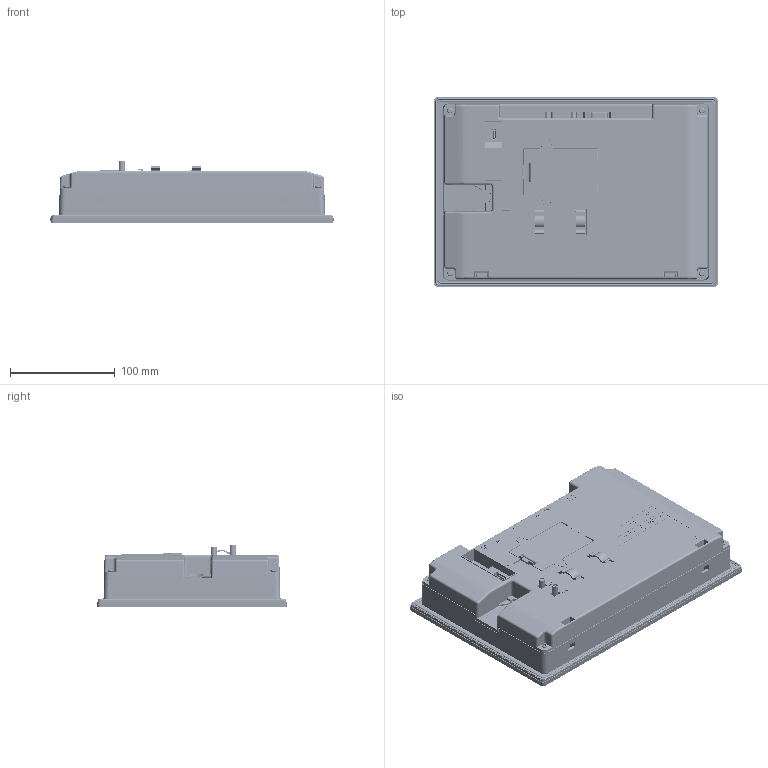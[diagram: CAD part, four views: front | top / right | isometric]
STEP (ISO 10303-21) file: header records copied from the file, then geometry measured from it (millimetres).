
FILE_DESCRIPTION((''),'2;1');
FILE_NAME('DOP-3C10WS_A_ASM','2023-11-17T14:28:03',('YULUN.WU'),(''),'CREO PARAMETRIC BY PTC INC, 2017110','CREO PARAMETRIC BY PTC INC, 2017110','');
FILE_SCHEMA(('CONFIG_CONTROL_DESIGN'));
Products named in the file (30): FRONTCASE_300IOT_10_A; LCM-TIANMA5059738485_10; BRACKET_300IOT_10_A; PCB_300IOT_A; POWER-B2_; COM-2-B2_; CONTACT-4-PIN_; COM-B2_; USB-HOST-B2-180_; TRANSFORMER; TF07V50S; BATTERYBASE; CAP; COMPONT; TYPEC_180; MICROSD; CAP6_5; 307246523M_DUALETHERNET; PCBASSY_300IOT_A_ASM; BACKCOVER_300IOT_10_A; TP_NAMEPLATE300IOT_7_10; M3X8L; GASKET_300IIOT_10; BATTCOVER_300IOT_7; ANTENNA_10; ANTENNA_10_4G; SMA_JACKET_REVERSE_WIRE_11P4L; SMA_JACK_STANDARD_WIRE; MYLAR_BC; DOP-3C10WS_A_ASM
Assembly tree (40 placements, depth 3):
  DOP-3C10WS_A_ASM
    FRONTCASE_300IOT_10_A
    LCM-TIANMA5059738485_10
    BRACKET_300IOT_10_A
    PCBASSY_300IOT_A_ASM
      PCB_300IOT_A
      POWER-B2_
      COM-2-B2_
      CONTACT-4-PIN_
      COM-B2_
      USB-HOST-B2-180_
      TRANSFORMER
      TF07V50S
      BATTERYBASE
      CAP
      COMPONT
      TYPEC_180
      MICROSD
      CAP6_5
      307246523M_DUALETHERNET
    BACKCOVER_300IOT_10_A
    TP_NAMEPLATE300IOT_7_10
    M3X8L  x12
    GASKET_300IIOT_10
    BATTCOVER_300IOT_7
    ANTENNA_10
    ANTENNA_10_4G
    SMA_JACKET_REVERSE_WIRE_11P4L
    SMA_JACK_STANDARD_WIRE
    MYLAR_BC
Bounding box: 270.48 x 181.38 x 59.07 mm (x, y, z)
Volume: 665810.3 mm3; surface area: 587423.4 mm2
Topology: 51 solids, 55 shells, 9695 faces, 27020 edges, 17691 vertices
Faces by surface type: plane 7129, cylinder 1611, bspline 288, extrusion 276, cone 254, torus 114, sphere 23
Entity records: 310445 total; most frequent: CARTESIAN_POINT 75651, ORIENTED_EDGE 50894, DIRECTION 44698, EDGE_CURVE 25520, VECTOR 20960, LINE 20684, VERTEX_POINT 16657, AXIS2_PLACEMENT_3D 11869
